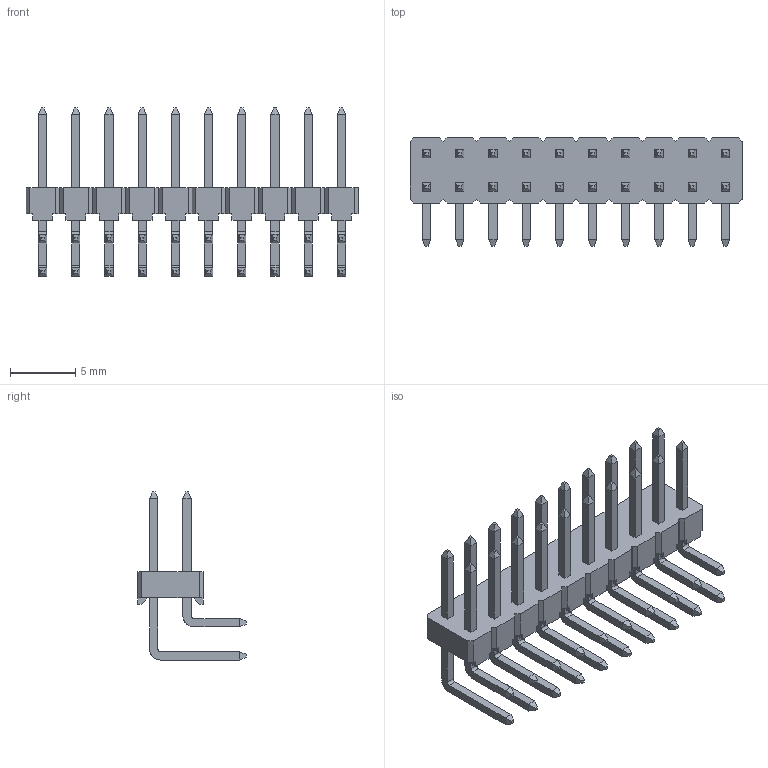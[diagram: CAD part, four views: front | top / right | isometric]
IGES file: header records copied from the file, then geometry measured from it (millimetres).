
Global section: file name: N:\GOLF_VI_2_54mm_UGII\961XXX-5X04-XX (TS-2182)\961220-5604-XX.igs; native system: NX V3.0; preprocessor: UGS NX IGES V4.0; date: 20070618.133652; units: millimetre
Bounding box: 25.4 x 8.3 x 12.86 mm (x, y, z)
Surface area: 1137 mm2 (no closed solid volume)
Topology: 0 solids, 0 shells, 606 faces, 3105 edges, 3105 vertices
Faces by surface type: bspline 606
